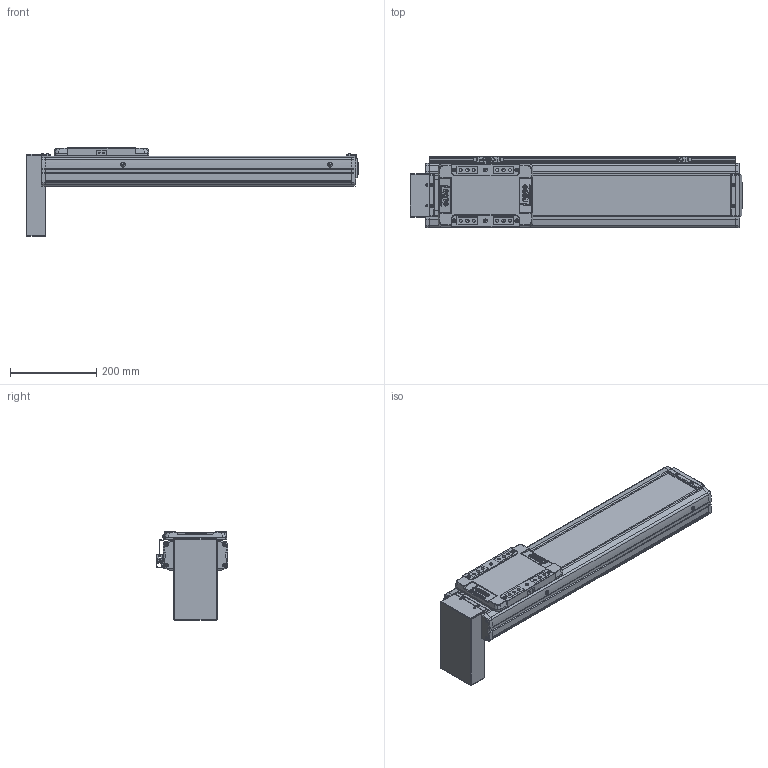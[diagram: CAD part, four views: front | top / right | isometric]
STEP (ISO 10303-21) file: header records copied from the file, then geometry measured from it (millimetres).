
FILE_DESCRIPTION(('STEP AP214'),'1');
FILE_NAME('Z:/Web/3D/SAN150/2013.04 (STP.)/SAN150ㅁㅁ-450PB+3SL.stp','2013-05-07T23:47:24',(' '),(' '),'Spatial InterOp 3D',' ',' ');
FILE_SCHEMA(('automotive_design'));
Length unit declared in the file: millimetre
Products named in the file (58): SLBL-SAN150; SLCV-SAN150; FHCS M4.0 x 8.0; BHCS M4.0 x 10.0; SFX-SAN150; RRCV-SAN150; FRBL-SAN150; Spacer; RN15; FRCV-SAN150; Screw 20; BASE-SAN150-000L ; SUS COVER; 스크루 : Round - M5.0 x 6.0; PB; 스크루 : Round - M3.0 x 6.0; M3.0 x 6.0; SRL-16x17-360L; SGD-SAN150; EE-SX674; SBK-SX674-352
Bounding box: 770 x 166 x 205.4 mm (x, y, z)
Volume: 5230235.6 mm3; surface area: 969438.8 mm2
Topology: 58 solids, 58 shells, 2582 faces, 6635 edges, 4268 vertices
Faces by surface type: plane 1386, cylinder 825, cone 258, sphere 80, bspline 21, torus 12
Entity records: 102022 total; most frequent: CARTESIAN_POINT 16029, DIRECTION 14032, ORIENTED_EDGE 13062, EDGE_CURVE 6531, AXIS2_PLACEMENT_3D 4966, VERTEX_POINT 4268, LINE 4100, VECTOR 4100
